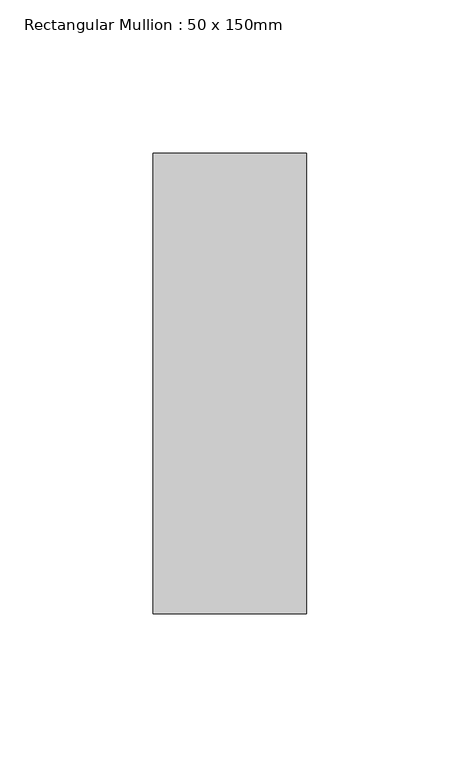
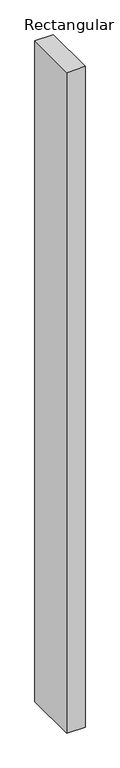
"""IFC4 building model written with IfcOpenShell, lengths in millimetres: member geometry, Rectangular Mullion : 50 x 150mm."""

from ifc_helpers import new_model, si_unit, frame, origin, place, context, project, spatial, polyline, outline, extrude, source, transform, mapped, element, save


def rectangular_mullion_50_x_150mm_f0eb3f16(model_context):
    return source(origin(), model_context, "Body", "SweptSolid", [
        extrude(outline(polyline([(0.0, 75.0), (0.0, -75.0), (-50.0, -75.0), (-50.0, 75.0), (0.0, 75.0)])), frame((0.0, 0.0, -1904.4), z_axis=(0.0, 0.0, 1.0), x_axis=(1.0, 0.0, 0.0)), (0.0, 0.0, 1.0), 1904.4),
    ])


if __name__ == "__main__":
    model = new_model("IFC4")
    model_context = context("Model", 3, world=origin())
    ifc_project = project(units=[si_unit("LENGTHUNIT", "METRE", prefix="MILLI")], contexts=[model_context])
    site = spatial("IfcSite", under=ifc_project)
    building = spatial("IfcBuilding", under=site)
    placement = place(None, origin())
    rectangular_mullion_50_x_150mm_shape = rectangular_mullion_50_x_150mm_f0eb3f16(model_context)
    element("IfcMember", 1, ObjectType="Rectangular Mullion : 50 x 150mm", at=placement, inside=building, context=model_context, shape_type="MappedRepresentation", body=[
        mapped(rectangular_mullion_50_x_150mm_shape, transform((0.0, 0.0, 0.0), x_axis=(1.0, 0.0, 0.0), y_axis=(0.0, 1.0, 0.0), z_axis=(0.0, 0.0, 1.0))),
    ])
    save(model, "model.ifc")
